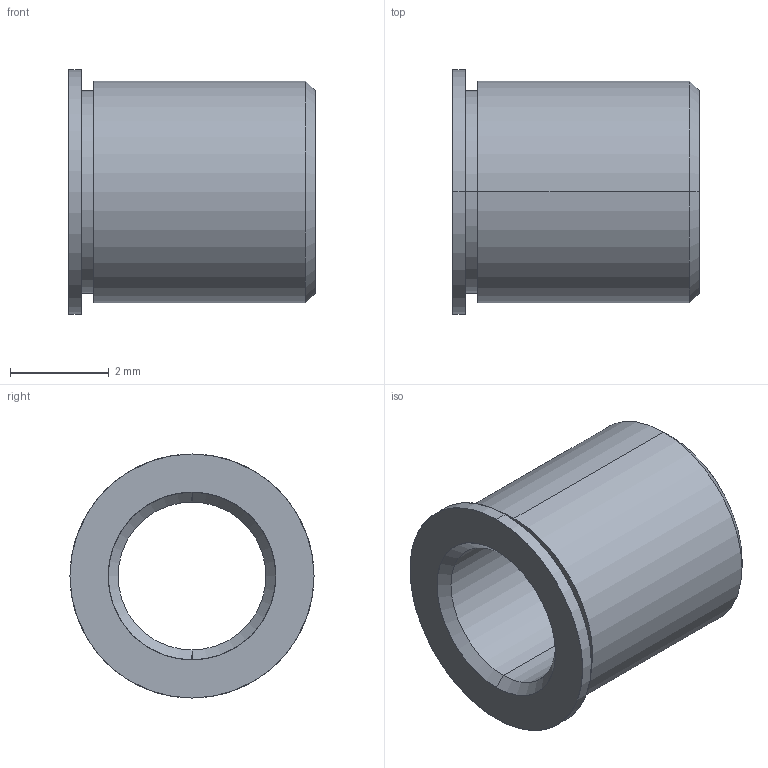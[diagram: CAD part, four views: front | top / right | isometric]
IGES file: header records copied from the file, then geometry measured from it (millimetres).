
Start section: SolidWorks IGES file using analytic representation for surfaces
Global section: file name: C:\Users\workpc\Desktop\KMA Solidworks\Metric Bushings\Metric Bushings IGES\TB3-20-05.IGS; native system: SolidWorks 2013; preprocessor: SolidWorks 2013; author: workpc; date: 130312.090440; units: millimetre
Bounding box: 5 x 4.95 x 4.95 mm (x, y, z)
Surface area: 143.8 mm2 (no closed solid volume)
Topology: 0 solids, 0 shells, 18 faces, 312 edges, 312 vertices
Faces by surface type: revolution 14, bspline 4
